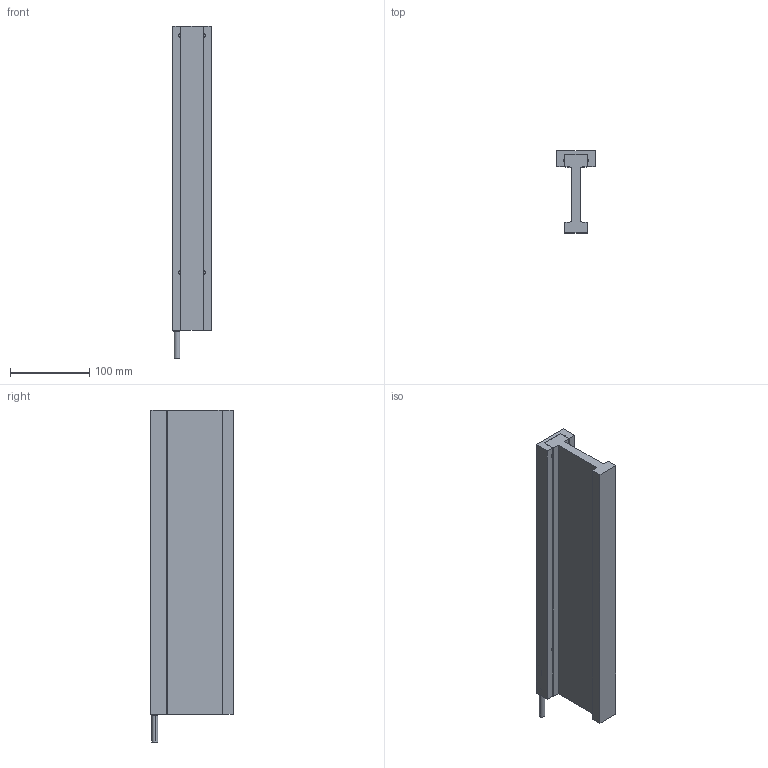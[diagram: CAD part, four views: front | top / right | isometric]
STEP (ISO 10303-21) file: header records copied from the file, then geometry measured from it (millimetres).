
FILE_DESCRIPTION (( 'STEP AP214' ), '1' );
FILE_NAME ('DX65F-C6-NH.step', '2022-09-22T03:41:59', ( '' ), ( '' ), 'SwSTEP 2.0', 'SolidWorks 2020', '' );
FILE_SCHEMA (( 'AUTOMOTIVE_DESIGN' ));
Length unit declared in the file: millimetre
Products named in the file (1): DX65F-C6-NH
Bounding box: 49 x 104 x 420 mm (x, y, z)
Volume: 813448.8 mm3; surface area: 182809.5 mm2
Topology: 3 solids, 3 shells, 139 faces, 361 edges, 213 vertices
Faces by surface type: cylinder 59, plane 47, cone 30, torus 2, bspline 1
Entity records: 5814 total; most frequent: CARTESIAN_POINT 912, DIRECTION 714, ORIENTED_EDGE 662, EDGE_CURVE 331, AXIS2_PLACEMENT_3D 253, VERTEX_POINT 213, VECTOR 208, LINE 208
